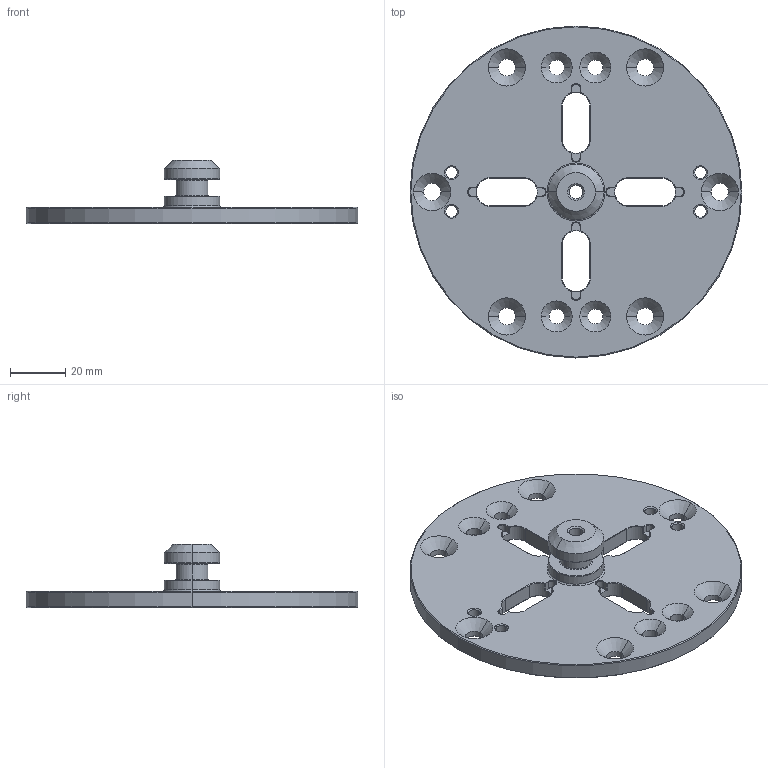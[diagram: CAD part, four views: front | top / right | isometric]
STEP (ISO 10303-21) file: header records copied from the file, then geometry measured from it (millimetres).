
FILE_DESCRIPTION (( 'STEP AP214' ), '1' );
FILE_NAME ('BP120.STEP', '2023-01-05T03:48:21', ( '微软用户' ), ( '微软中国' ), 'SwSTEP 2.0', 'SolidWorks 2018', '' );
FILE_SCHEMA (( 'AUTOMOTIVE_DESIGN' ));
Length unit declared in the file: millimetre
Products named in the file (1): BP120
Bounding box: 120 x 120 x 23 mm (x, y, z)
Volume: 62769.4 mm3; surface area: 26522.2 mm2
Topology: 1 solids, 1 shells, 271 faces, 640 edges, 374 vertices
Faces by surface type: cone 106, plane 101, cylinder 58, torus 6
Entity records: 7898 total; most frequent: DIRECTION 1420, CARTESIAN_POINT 1334, ORIENTED_EDGE 1280, EDGE_CURVE 640, AXIS2_PLACEMENT_3D 524, VERTEX_POINT 374, LINE 372, VECTOR 372
